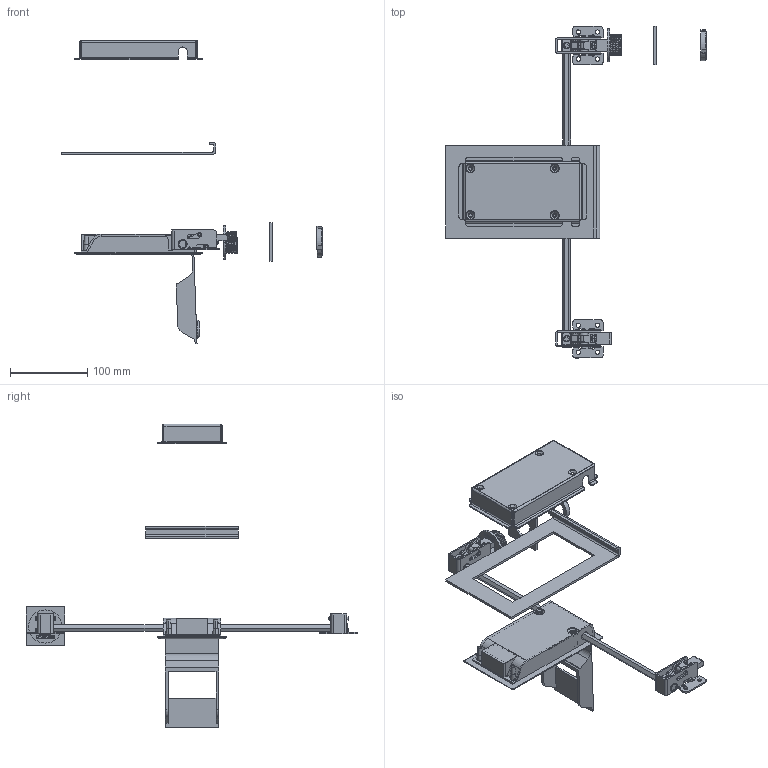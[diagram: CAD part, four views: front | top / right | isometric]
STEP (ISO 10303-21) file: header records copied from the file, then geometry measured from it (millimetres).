
FILE_DESCRIPTION (( 'STEP AP203' ), '1' );
FILE_NAME ('SK1-100.SK1-200假蚾尨砩芞.STEP', '2017-06-26T01:59:49', ( 'admin' ), ( 'Microsoft' ), 'SwSTEP 2.0', 'SolidWorks 2015', '' );
FILE_SCHEMA (( 'CONFIG_CONTROL_DESIGN' ));
Length unit declared in the file: millimetre
Products named in the file (20): SK1-100-3; SK1-100_M3_85; SK1-200K_鞠晚倛蟀裝; M30鼠備酗僅7蹟譫; SK1-100_M3-96; SK1-100_M3_97; SK1-100-3藷啣; SK1-100_M302350201; SK1-100_M3_47; SK1-100.SK1-200假蚾尨砩芞; SK1-100; SK1-100_M3_45_2; SK1-200K_Bracket_clf; SK1-100_M3_45_3; SK1-200K_Cup_clf; SK1-100_M30467915; SK1-200K_Paddle_clf; SK1-100_M3_45_1; SK1-200K_藷啣; SK1-100_M3-86
Assembly tree (21 placements, depth 3):
  SK1-100.SK1-200假蚾尨砩芞
    SK1-200K_鞠晚倛蟀裝
    SK1-100  x2
      SK1-100_M3_97
      SK1-100_M3_47
      SK1-100_M3_45_2
      SK1-100_M3_45_3
      SK1-100_M30467915
      SK1-100_M3_45_1
      SK1-100_M3-86
      SK1-100_M3_85
      SK1-100_M3-96
      SK1-100_M302350201
    SK1-200K_Bracket_clf
    SK1-200K_Cup_clf
    SK1-200K_Paddle_clf
    SK1-200K_藷啣
    SK1-100-3
    M30鼠備酗僅7蹟譫
    SK1-100-3藷啣
Bounding box: 337.9 x 429.93 x 393.39 mm (x, y, z)
Volume: 255383.5 mm3; surface area: 225835.7 mm2
Topology: 28 solids, 32 shells, 2141 faces, 5776 edges, 3749 vertices
Faces by surface type: plane 1304, cylinder 530, bspline 209, cone 86, torus 10, sphere 2
Entity records: 59112 total; most frequent: CARTESIAN_POINT 22574, ORIENTED_EDGE 7652, DIRECTION 6298, EDGE_CURVE 3828, LINE 2530, VECTOR 2530, VERTEX_POINT 2494, AXIS2_PLACEMENT_3D 1884
